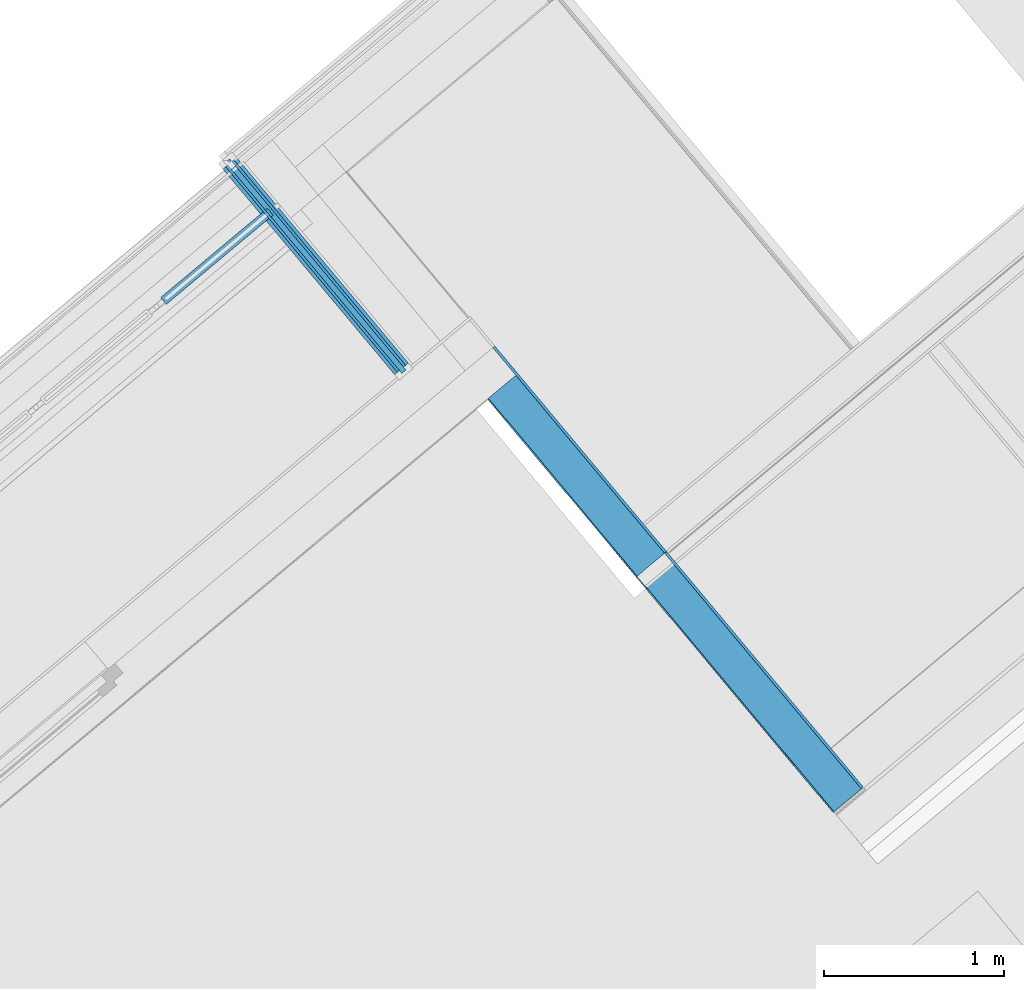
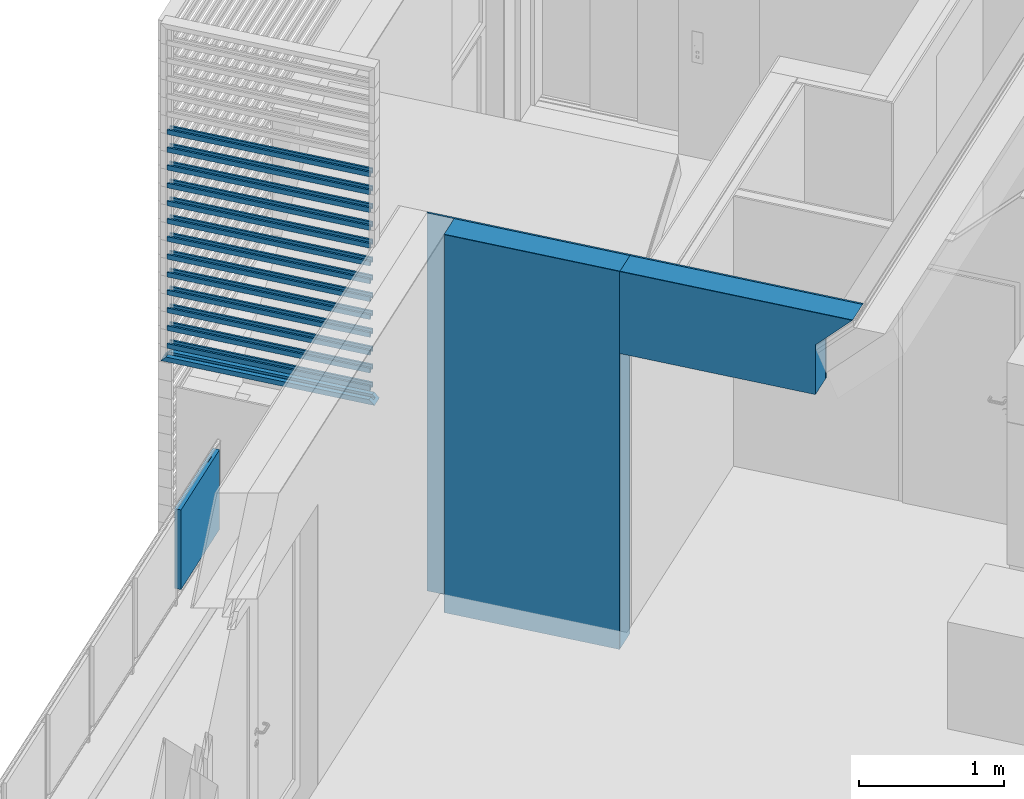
# One storey, part 20 of 47: 21 building element parts, 4 elements without a shape of their own.
"""IFC4 building model written with IfcOpenShell, lengths in metres."""

from ifc_helpers import new_model, entity, si_unit, converted_unit, derived_unit, direction, frame, origin_with_axes, place, context, subcontext, project, spatial, polygons, material, type_object, element, aggregate, save


model = new_model("IFC4")

# Units and contexts
model_context = context("Model", 3, precision=1e-05, world=origin_with_axes(), true_north=direction((0.0, 1.0)))
body_context = subcontext(model_context, "Body", "Model", "MODEL_VIEW")
ifc_project = project(units=[si_unit("LENGTHUNIT", "METRE"), si_unit("AREAUNIT", "SQUARE_METRE"), si_unit("VOLUMEUNIT", "CUBIC_METRE"), converted_unit("PLANEANGLEUNIT", "DEGREE", entity("IfcPlaneAngleMeasure", 0.0174532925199), si_unit("PLANEANGLEUNIT", "RADIAN"), dimensions=[0, 0, 0, 0, 0, 0, 0]), converted_unit("TIMEUNIT", "Year", entity("IfcTimeMeasure", 31556926.0), si_unit("TIMEUNIT", "SECOND"), dimensions=[0, 0, 1, 0, 0, 0, 0]), si_unit("MASSUNIT", "GRAM", prefix="KILO"), si_unit("THERMODYNAMICTEMPERATUREUNIT", "DEGREE_CELSIUS"), si_unit("LUMINOUSINTENSITYUNIT", "LUMEN"), si_unit("ENERGYUNIT", "JOULE", prefix="MEGA"), derived_unit("THERMALCONDUCTANCEUNIT", [(si_unit("POWERUNIT", "WATT"), 1), (si_unit("LENGTHUNIT", "METRE"), -1), (si_unit("THERMODYNAMICTEMPERATUREUNIT", "KELVIN"), -1)]), derived_unit("SPECIFICHEATCAPACITYUNIT", [(si_unit("ENERGYUNIT", "JOULE"), 1), (si_unit("MASSUNIT", "GRAM", prefix="KILO"), -1), (si_unit("THERMODYNAMICTEMPERATUREUNIT", "KELVIN"), -1)]), derived_unit("MASSDENSITYUNIT", [(si_unit("MASSUNIT", "GRAM", prefix="KILO"), 1), (si_unit("VOLUMEUNIT", "CUBIC_METRE"), -1)])], contexts=[model_context])

# Site, building, storey
site_placement = place(None, frame((-0.00153261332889, -0.00661245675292, 0.0), z_axis=(0.0, 0.0, 1.0), x_axis=(1.0, 0.0, 0.0)))
site = spatial("IfcSite", under=ifc_project, at=site_placement, Name="Site", CompositionType="ELEMENT")
building_placement = place(site_placement, origin_with_axes())
building = spatial("IfcBuilding", under=site, at=building_placement, Name="Building", CompositionType="ELEMENT")
storey_placement = place(building_placement, frame((0.0, 0.0, 8.66), z_axis=(0.0, 0.0, 1.0), x_axis=(1.0, 0.0, 0.0)))
storey = spatial("IfcBuildingStorey", under=building, at=storey_placement, Name="DG2", CompositionType="ELEMENT", Elevation=8.66)

# Wall, building element parts
wall_type = type_object("IfcWallType", Name="AW DG 220", PredefinedType="NOTDEFINED")
wall_1_placement = place(storey_placement, frame((-2.3472298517, 20.4348629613, 2.49006881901), z_axis=(0.0, 0.0, 1.0), x_axis=(0.641209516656, -0.767365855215, 0.0)))
wall_1 = element("IfcWall", 1, at=wall_1_placement, inside=storey, type_object=wall_type, Name="Wand-003", PredefinedType="NOTDEFINED")
ifc_material_1 = material(Name="Zementputz")
building_element_part_1_placement = place(wall_1_placement, origin_with_axes())
building_element_part_1 = element("IfcBuildingElementPart", 2, at=building_element_part_1_placement, material=ifc_material_1, Name="Zementputz", PredefinedType="NOTDEFINED", context=body_context, shape_type="Tessellation", body=[
    polygons([(1.91245812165, 0.20500000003, 0.689931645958), (1.91245859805, 0.219999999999, 0.689931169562), (0.0, 0.22, 0.689931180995), (0.0, 0.205, 0.689931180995), (1.64102248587, 0.22, 0.418495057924), (1.64102167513, 0.205, 0.41849519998), (1.64102248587, 0.22, 0.0), (0.0, 0.22, 0.0), (0.0, 0.205, 0.0), (1.64102167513, 0.205, 0.0)], [[[1, 2, 3, 4]], [[5, 2, 1, 6]], [[5, 7, 8, 3, 2]], [[3, 8, 9, 4]], [[6, 1, 4, 9, 10]], [[7, 5, 6, 10]], [[7, 10, 9, 8]]], closed=True),
])
ifc_material_2 = material(Name="Stahlbeton Wand")
building_element_part_2_placement = place(wall_1_placement, origin_with_axes())
building_element_part_2 = element("IfcBuildingElementPart", 3, at=building_element_part_2_placement, material=ifc_material_2, Name="Stahlbeton Wand", PredefinedType="NOTDEFINED", context=body_context, shape_type="Tessellation", body=[
    polygons([(1.9124517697, 0.00500000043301, 0.689937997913), (1.91245812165, 0.20500000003, 0.689931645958), (0.0, 0.205, 0.689931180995), (0.0, 0.005, 0.689931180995), (1.64102167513, 0.205, 0.41849519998), (1.64101086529, 0.005, 0.41849709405), (1.64102167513, 0.205, 0.0), (0.0, 0.205, 0.0), (0.0, 0.005, 0.0), (1.64101086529, 0.005, 0.0)], [[[1, 2, 3, 4]], [[5, 2, 1, 6]], [[5, 7, 8, 3, 2]], [[3, 8, 9, 4]], [[6, 1, 4, 9, 10]], [[7, 5, 6, 10]], [[7, 10, 9, 8]]], closed=True),
])
building_element_part_3_placement = place(wall_1_placement, origin_with_axes())
building_element_part_3 = element("IfcBuildingElementPart", 4, at=building_element_part_3_placement, material=ifc_material_1, Name="Zementputz", PredefinedType="NOTDEFINED", context=body_context, shape_type="Tessellation", body=[
    polygons([(1.9124516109, 4.43092673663e-10, 0.689938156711), (1.9124517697, 0.00500000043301, 0.689937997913), (0.0, 0.005, 0.689931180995), (0.0, 0.0, 0.689931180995), (1.64101086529, 0.005, 0.41849709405), (1.64101059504, 0.0, 0.418497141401), (1.64101086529, 0.005, 0.0), (0.0, 0.005, 0.0), (0.0, 0.0, 0.0), (1.64101059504, 0.0, 0.0)], [[[1, 2, 3, 4]], [[5, 2, 1, 6]], [[5, 7, 8, 3, 2]], [[3, 8, 9, 4]], [[6, 1, 4, 9, 10]], [[7, 5, 6, 10]], [[7, 10, 9, 8]]], closed=True),
])
aggregate(wall_1, [building_element_part_1, building_element_part_2, building_element_part_3])

# Curtain wall, building element parts
curtain_wall_type = type_object("IfcCurtainWallType", Name="Fassadentyp", PredefinedType="NOTDEFINED")
curtain_wall_placement = place(storey_placement, frame((-3.99984616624, 22.0071436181, 1.87), z_axis=(0.0, 0.0, 1.0), x_axis=(1.0, 0.0, 0.0)))
curtain_wall = element("IfcCurtainWall", 5, at=curtain_wall_placement, inside=storey, type_object=curtain_wall_type, Name="Fassade-001", PredefinedType="NOTDEFINED")
ifc_material_3 = material(Name="Blech")
building_element_part_4_placement = place(curtain_wall_placement, origin_with_axes())
building_element_part_4 = element("IfcBuildingElementPart", 6, at=building_element_part_4_placement, material=ifc_material_3, Name="Blech", PredefinedType="NOTDEFINED", context=body_context, shape_type="Tessellation", body=[
    polygons([(0.502113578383, -0.577509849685, 0.0), (0.479092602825, -0.596746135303, 0.0), (0.466268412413, -0.581398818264, 0.02), (0.439410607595, -0.603841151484, 0.02), (0.465058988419, -0.634535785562, -0.02), (0.541795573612, -0.570414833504, -0.02), (0.516147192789, -0.539720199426, 0.02), (0.489289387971, -0.562162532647, 0.02), (-0.479092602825, 0.596746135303, 0.0), (-0.502113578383, 0.577509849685, 0.0), (-0.489289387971, 0.562162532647, 0.02), (-0.516147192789, 0.539720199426, 0.02), (-0.541795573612, 0.570414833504, -0.02), (-0.465058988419, 0.634535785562, -0.02), (-0.439410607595, 0.603841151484, 0.02), (-0.466268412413, 0.581398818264, 0.02)], [[[1, 2, 3, 4, 5, 6, 7, 8]], [[2, 1, 9, 10]], [[11, 3, 2, 10]], [[3, 11, 12, 4]], [[5, 4, 12, 13]], [[6, 5, 13, 14]], [[7, 6, 14, 15]], [[16, 8, 7, 15]], [[1, 8, 16, 9]], [[9, 16, 15, 14, 13, 12, 11, 10]]], closed=True),
])
building_element_part_5_placement = place(curtain_wall_placement, origin_with_axes())
building_element_part_5 = element("IfcBuildingElementPart", 7, at=building_element_part_5_placement, material=ifc_material_3, Name="Blech", PredefinedType="NOTDEFINED", context=body_context, shape_type="Tessellation", body=[
    polygons([(-0.466268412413, 0.581398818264, 0.100000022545), (-0.466268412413, 0.581398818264, 0.0800000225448), (0.489289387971, -0.562162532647, 0.0800000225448), (0.489289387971, -0.562162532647, 0.100000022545), (0.489289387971, -0.562162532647, 0.120000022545), (-0.466268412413, 0.581398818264, 0.120000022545), (-0.454757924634, 0.591016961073, 0.120000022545), (-0.454757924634, 0.591016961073, 0.0800000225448), (0.50079987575, -0.552544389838, 0.0800000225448), (0.50079987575, -0.552544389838, 0.120000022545)], [[[1, 2, 3, 4, 5, 6]], [[2, 1, 6, 7, 8]], [[3, 2, 8, 9]], [[4, 3, 9, 10, 5]], [[5, 10, 7, 6]], [[9, 8, 7, 10]]], closed=True),
    polygons([(0.466268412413, -0.581398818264, 0.0800000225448), (0.466268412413, -0.581398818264, 0.100000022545), (0.466268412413, -0.581398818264, 0.120000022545), (0.454757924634, -0.591016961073, 0.120000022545), (0.454757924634, -0.591016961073, 0.0800000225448), (-0.489289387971, 0.562162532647, 0.0800000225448), (-0.489289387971, 0.562162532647, 0.100000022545), (-0.489289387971, 0.562162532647, 0.120000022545), (-0.500799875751, 0.552544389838, 0.120000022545), (-0.500799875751, 0.552544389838, 0.0800000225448)], [[[1, 2, 3, 4, 5]], [[2, 1, 6, 7, 8, 3]], [[8, 9, 4, 3]], [[4, 9, 10, 5]], [[6, 1, 5, 10]], [[7, 6, 10, 9, 8]]], closed=True),
])
building_element_part_6_placement = place(curtain_wall_placement, origin_with_axes())
building_element_part_6 = element("IfcBuildingElementPart", 8, at=building_element_part_6_placement, material=ifc_material_3, Name="Blech", PredefinedType="NOTDEFINED", context=body_context, shape_type="Tessellation", body=[
    polygons([(-0.466268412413, 0.581398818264, 0.250000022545), (-0.466268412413, 0.581398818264, 0.230000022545), (0.489289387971, -0.562162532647, 0.230000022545), (0.489289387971, -0.562162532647, 0.250000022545), (0.489289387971, -0.562162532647, 0.270000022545), (-0.466268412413, 0.581398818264, 0.270000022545), (-0.454757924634, 0.591016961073, 0.270000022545), (-0.454757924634, 0.591016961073, 0.230000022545), (0.50079987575, -0.552544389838, 0.230000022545), (0.50079987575, -0.552544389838, 0.270000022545)], [[[1, 2, 3, 4, 5, 6]], [[2, 1, 6, 7, 8]], [[3, 2, 8, 9]], [[4, 3, 9, 10, 5]], [[5, 10, 7, 6]], [[9, 8, 7, 10]]], closed=True),
    polygons([(0.466268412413, -0.581398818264, 0.230000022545), (0.466268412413, -0.581398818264, 0.250000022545), (0.466268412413, -0.581398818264, 0.270000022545), (0.454757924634, -0.591016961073, 0.270000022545), (0.454757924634, -0.591016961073, 0.230000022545), (-0.489289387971, 0.562162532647, 0.230000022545), (-0.489289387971, 0.562162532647, 0.250000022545), (-0.489289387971, 0.562162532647, 0.270000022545), (-0.500799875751, 0.552544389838, 0.270000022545), (-0.500799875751, 0.552544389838, 0.230000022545)], [[[1, 2, 3, 4, 5]], [[2, 1, 6, 7, 8, 3]], [[8, 9, 4, 3]], [[4, 9, 10, 5]], [[6, 1, 5, 10]], [[7, 6, 10, 9, 8]]], closed=True),
])
building_element_part_7_placement = place(curtain_wall_placement, origin_with_axes())
building_element_part_7 = element("IfcBuildingElementPart", 9, at=building_element_part_7_placement, material=ifc_material_3, Name="Blech", PredefinedType="NOTDEFINED", context=body_context, shape_type="Tessellation", body=[
    polygons([(-0.466268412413, 0.581398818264, 0.400000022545), (-0.466268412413, 0.581398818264, 0.380000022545), (0.489289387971, -0.562162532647, 0.380000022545), (0.489289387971, -0.562162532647, 0.400000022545), (0.489289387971, -0.562162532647, 0.420000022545), (-0.466268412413, 0.581398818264, 0.420000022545), (-0.454757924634, 0.591016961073, 0.420000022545), (-0.454757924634, 0.591016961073, 0.380000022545), (0.50079987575, -0.552544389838, 0.380000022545), (0.50079987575, -0.552544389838, 0.420000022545)], [[[1, 2, 3, 4, 5, 6]], [[2, 1, 6, 7, 8]], [[3, 2, 8, 9]], [[4, 3, 9, 10, 5]], [[5, 10, 7, 6]], [[9, 8, 7, 10]]], closed=True),
    polygons([(0.466268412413, -0.581398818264, 0.380000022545), (0.466268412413, -0.581398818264, 0.400000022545), (0.466268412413, -0.581398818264, 0.420000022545), (0.454757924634, -0.591016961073, 0.420000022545), (0.454757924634, -0.591016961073, 0.380000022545), (-0.489289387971, 0.562162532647, 0.380000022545), (-0.489289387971, 0.562162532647, 0.400000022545), (-0.489289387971, 0.562162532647, 0.420000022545), (-0.500799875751, 0.552544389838, 0.420000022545), (-0.500799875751, 0.552544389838, 0.380000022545)], [[[1, 2, 3, 4, 5]], [[2, 1, 6, 7, 8, 3]], [[8, 9, 4, 3]], [[4, 9, 10, 5]], [[6, 1, 5, 10]], [[7, 6, 10, 9, 8]]], closed=True),
])
building_element_part_8_placement = place(curtain_wall_placement, origin_with_axes())
building_element_part_8 = element("IfcBuildingElementPart", 10, at=building_element_part_8_placement, material=ifc_material_3, Name="Blech", PredefinedType="NOTDEFINED", context=body_context, shape_type="Tessellation", body=[
    polygons([(-0.466268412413, 0.581398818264, 0.550000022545), (-0.466268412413, 0.581398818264, 0.530000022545), (0.489289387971, -0.562162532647, 0.530000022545), (0.489289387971, -0.562162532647, 0.550000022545), (0.489289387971, -0.562162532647, 0.570000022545), (-0.466268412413, 0.581398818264, 0.570000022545), (-0.454757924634, 0.591016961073, 0.570000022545), (-0.454757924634, 0.591016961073, 0.530000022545), (0.50079987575, -0.552544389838, 0.530000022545), (0.50079987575, -0.552544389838, 0.570000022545)], [[[1, 2, 3, 4, 5, 6]], [[2, 1, 6, 7, 8]], [[3, 2, 8, 9]], [[4, 3, 9, 10, 5]], [[5, 10, 7, 6]], [[9, 8, 7, 10]]], closed=True),
    polygons([(0.466268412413, -0.581398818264, 0.530000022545), (0.466268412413, -0.581398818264, 0.550000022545), (0.466268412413, -0.581398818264, 0.570000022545), (0.454757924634, -0.591016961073, 0.570000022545), (0.454757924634, -0.591016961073, 0.530000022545), (-0.489289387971, 0.562162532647, 0.530000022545), (-0.489289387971, 0.562162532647, 0.550000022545), (-0.489289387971, 0.562162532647, 0.570000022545), (-0.500799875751, 0.552544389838, 0.570000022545), (-0.500799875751, 0.552544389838, 0.530000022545)], [[[1, 2, 3, 4, 5]], [[2, 1, 6, 7, 8, 3]], [[8, 9, 4, 3]], [[4, 9, 10, 5]], [[6, 1, 5, 10]], [[7, 6, 10, 9, 8]]], closed=True),
])
building_element_part_9_placement = place(curtain_wall_placement, origin_with_axes())
building_element_part_9 = element("IfcBuildingElementPart", 11, at=building_element_part_9_placement, material=ifc_material_3, Name="Blech", PredefinedType="NOTDEFINED", context=body_context, shape_type="Tessellation", body=[
    polygons([(-0.466268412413, 0.581398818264, 0.700000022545), (-0.466268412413, 0.581398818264, 0.680000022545), (0.489289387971, -0.562162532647, 0.680000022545), (0.489289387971, -0.562162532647, 0.700000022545), (0.489289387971, -0.562162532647, 0.720000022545), (-0.466268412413, 0.581398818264, 0.720000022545), (-0.454757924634, 0.591016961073, 0.720000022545), (-0.454757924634, 0.591016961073, 0.680000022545), (0.50079987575, -0.552544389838, 0.680000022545), (0.50079987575, -0.552544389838, 0.720000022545)], [[[1, 2, 3, 4, 5, 6]], [[2, 1, 6, 7, 8]], [[3, 2, 8, 9]], [[4, 3, 9, 10, 5]], [[5, 10, 7, 6]], [[9, 8, 7, 10]]], closed=True),
    polygons([(0.466268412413, -0.581398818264, 0.680000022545), (0.466268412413, -0.581398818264, 0.700000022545), (0.466268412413, -0.581398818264, 0.720000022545), (0.454757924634, -0.591016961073, 0.720000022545), (0.454757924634, -0.591016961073, 0.680000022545), (-0.489289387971, 0.562162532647, 0.680000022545), (-0.489289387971, 0.562162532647, 0.700000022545), (-0.489289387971, 0.562162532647, 0.720000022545), (-0.500799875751, 0.552544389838, 0.720000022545), (-0.500799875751, 0.552544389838, 0.680000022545)], [[[1, 2, 3, 4, 5]], [[2, 1, 6, 7, 8, 3]], [[8, 9, 4, 3]], [[4, 9, 10, 5]], [[6, 1, 5, 10]], [[7, 6, 10, 9, 8]]], closed=True),
])
building_element_part_10_placement = place(curtain_wall_placement, origin_with_axes())
building_element_part_10 = element("IfcBuildingElementPart", 12, at=building_element_part_10_placement, material=ifc_material_3, Name="Blech", PredefinedType="NOTDEFINED", context=body_context, shape_type="Tessellation", body=[
    polygons([(-0.466268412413, 0.581398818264, 0.850000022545), (-0.466268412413, 0.581398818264, 0.830000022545), (0.489289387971, -0.562162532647, 0.830000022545), (0.489289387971, -0.562162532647, 0.850000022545), (0.489289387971, -0.562162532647, 0.870000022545), (-0.466268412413, 0.581398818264, 0.870000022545), (-0.454757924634, 0.591016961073, 0.870000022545), (-0.454757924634, 0.591016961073, 0.830000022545), (0.50079987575, -0.552544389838, 0.830000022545), (0.50079987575, -0.552544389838, 0.870000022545)], [[[1, 2, 3, 4, 5, 6]], [[2, 1, 6, 7, 8]], [[3, 2, 8, 9]], [[4, 3, 9, 10, 5]], [[5, 10, 7, 6]], [[9, 8, 7, 10]]], closed=True),
    polygons([(0.466268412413, -0.581398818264, 0.830000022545), (0.466268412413, -0.581398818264, 0.850000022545), (0.466268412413, -0.581398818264, 0.870000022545), (0.454757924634, -0.591016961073, 0.870000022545), (0.454757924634, -0.591016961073, 0.830000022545), (-0.489289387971, 0.562162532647, 0.830000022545), (-0.489289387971, 0.562162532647, 0.850000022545), (-0.489289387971, 0.562162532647, 0.870000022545), (-0.500799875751, 0.552544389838, 0.870000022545), (-0.500799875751, 0.552544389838, 0.830000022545)], [[[1, 2, 3, 4, 5]], [[2, 1, 6, 7, 8, 3]], [[8, 9, 4, 3]], [[4, 9, 10, 5]], [[6, 1, 5, 10]], [[7, 6, 10, 9, 8]]], closed=True),
])
building_element_part_11_placement = place(curtain_wall_placement, origin_with_axes())
building_element_part_11 = element("IfcBuildingElementPart", 13, at=building_element_part_11_placement, material=ifc_material_3, Name="Blech", PredefinedType="NOTDEFINED", context=body_context, shape_type="Tessellation", body=[
    polygons([(-0.466268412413, 0.581398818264, 1.00000002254), (-0.466268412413, 0.581398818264, 0.980000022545), (0.489289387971, -0.562162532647, 0.980000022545), (0.489289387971, -0.562162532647, 1.00000002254), (0.489289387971, -0.562162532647, 1.02000002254), (-0.466268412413, 0.581398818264, 1.02000002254), (-0.454757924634, 0.591016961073, 1.02000002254), (-0.454757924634, 0.591016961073, 0.980000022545), (0.50079987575, -0.552544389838, 0.980000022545), (0.50079987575, -0.552544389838, 1.02000002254)], [[[1, 2, 3, 4, 5, 6]], [[2, 1, 6, 7, 8]], [[3, 2, 8, 9]], [[4, 3, 9, 10, 5]], [[5, 10, 7, 6]], [[9, 8, 7, 10]]], closed=True),
    polygons([(0.466268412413, -0.581398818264, 0.980000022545), (0.466268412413, -0.581398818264, 1.00000002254), (0.466268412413, -0.581398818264, 1.02000002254), (0.454757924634, -0.591016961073, 1.02000002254), (0.454757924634, -0.591016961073, 0.980000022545), (-0.489289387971, 0.562162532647, 0.980000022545), (-0.489289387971, 0.562162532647, 1.00000002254), (-0.489289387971, 0.562162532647, 1.02000002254), (-0.500799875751, 0.552544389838, 1.02000002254), (-0.500799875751, 0.552544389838, 0.980000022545)], [[[1, 2, 3, 4, 5]], [[2, 1, 6, 7, 8, 3]], [[8, 9, 4, 3]], [[4, 9, 10, 5]], [[6, 1, 5, 10]], [[7, 6, 10, 9, 8]]], closed=True),
])
building_element_part_12_placement = place(curtain_wall_placement, origin_with_axes())
building_element_part_12 = element("IfcBuildingElementPart", 14, at=building_element_part_12_placement, material=ifc_material_3, Name="Blech", PredefinedType="NOTDEFINED", context=body_context, shape_type="Tessellation", body=[
    polygons([(-0.466268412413, 0.581398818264, 1.15000002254), (-0.466268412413, 0.581398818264, 1.13000002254), (0.489289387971, -0.562162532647, 1.13000002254), (0.489289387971, -0.562162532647, 1.15000002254), (0.489289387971, -0.562162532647, 1.17000002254), (-0.466268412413, 0.581398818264, 1.17000002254), (-0.454757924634, 0.591016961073, 1.17000002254), (-0.454757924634, 0.591016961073, 1.13000002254), (0.50079987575, -0.552544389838, 1.13000002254), (0.50079987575, -0.552544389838, 1.17000002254)], [[[1, 2, 3, 4, 5, 6]], [[2, 1, 6, 7, 8]], [[3, 2, 8, 9]], [[4, 3, 9, 10, 5]], [[5, 10, 7, 6]], [[9, 8, 7, 10]]], closed=True),
    polygons([(0.466268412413, -0.581398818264, 1.13000002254), (0.466268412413, -0.581398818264, 1.15000002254), (0.466268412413, -0.581398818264, 1.17000002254), (0.454757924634, -0.591016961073, 1.17000002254), (0.454757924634, -0.591016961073, 1.13000002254), (-0.489289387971, 0.562162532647, 1.13000002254), (-0.489289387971, 0.562162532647, 1.15000002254), (-0.489289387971, 0.562162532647, 1.17000002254), (-0.500799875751, 0.552544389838, 1.17000002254), (-0.500799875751, 0.552544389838, 1.13000002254)], [[[1, 2, 3, 4, 5]], [[2, 1, 6, 7, 8, 3]], [[8, 9, 4, 3]], [[4, 9, 10, 5]], [[6, 1, 5, 10]], [[7, 6, 10, 9, 8]]], closed=True),
])
building_element_part_13_placement = place(curtain_wall_placement, origin_with_axes())
building_element_part_13 = element("IfcBuildingElementPart", 15, at=building_element_part_13_placement, material=ifc_material_3, Name="Blech", PredefinedType="NOTDEFINED", context=body_context, shape_type="Tessellation", body=[
    polygons([(-0.466268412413, 0.581398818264, 1.30000002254), (-0.466268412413, 0.581398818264, 1.28000002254), (0.489289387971, -0.562162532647, 1.28000002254), (0.489289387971, -0.562162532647, 1.30000002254), (0.489289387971, -0.562162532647, 1.32000002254), (-0.466268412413, 0.581398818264, 1.32000002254), (-0.454757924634, 0.591016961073, 1.32000002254), (-0.454757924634, 0.591016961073, 1.28000002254), (0.50079987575, -0.552544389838, 1.28000002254), (0.50079987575, -0.552544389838, 1.32000002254)], [[[1, 2, 3, 4, 5, 6]], [[2, 1, 6, 7, 8]], [[3, 2, 8, 9]], [[4, 3, 9, 10, 5]], [[5, 10, 7, 6]], [[9, 8, 7, 10]]], closed=True),
    polygons([(0.466268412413, -0.581398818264, 1.28000002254), (0.466268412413, -0.581398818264, 1.30000002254), (0.466268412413, -0.581398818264, 1.32000002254), (0.454757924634, -0.591016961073, 1.32000002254), (0.454757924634, -0.591016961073, 1.28000002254), (-0.489289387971, 0.562162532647, 1.28000002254), (-0.489289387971, 0.562162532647, 1.30000002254), (-0.489289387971, 0.562162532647, 1.32000002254), (-0.500799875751, 0.552544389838, 1.32000002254), (-0.500799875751, 0.552544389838, 1.28000002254)], [[[1, 2, 3, 4, 5]], [[2, 1, 6, 7, 8, 3]], [[8, 9, 4, 3]], [[4, 9, 10, 5]], [[6, 1, 5, 10]], [[7, 6, 10, 9, 8]]], closed=True),
])
building_element_part_14_placement = place(curtain_wall_placement, origin_with_axes())
building_element_part_14 = element("IfcBuildingElementPart", 16, at=building_element_part_14_placement, material=ifc_material_3, Name="Blech", PredefinedType="NOTDEFINED", context=body_context, shape_type="Tessellation", body=[
    polygons([(-0.466268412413, 0.581398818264, 1.45000002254), (-0.466268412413, 0.581398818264, 1.43000002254), (0.489289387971, -0.562162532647, 1.43000002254), (0.489289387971, -0.562162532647, 1.45000002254), (0.489289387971, -0.562162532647, 1.47000002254), (-0.466268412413, 0.581398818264, 1.47000002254), (-0.454757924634, 0.591016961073, 1.47000002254), (-0.454757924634, 0.591016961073, 1.43000002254), (0.50079987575, -0.552544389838, 1.43000002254), (0.50079987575, -0.552544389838, 1.47000002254)], [[[1, 2, 3, 4, 5, 6]], [[2, 1, 6, 7, 8]], [[3, 2, 8, 9]], [[4, 3, 9, 10, 5]], [[5, 10, 7, 6]], [[9, 8, 7, 10]]], closed=True),
    polygons([(0.466268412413, -0.581398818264, 1.43000002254), (0.466268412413, -0.581398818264, 1.45000002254), (0.466268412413, -0.581398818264, 1.47000002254), (0.454757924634, -0.591016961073, 1.47000002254), (0.454757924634, -0.591016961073, 1.43000002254), (-0.489289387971, 0.562162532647, 1.43000002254), (-0.489289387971, 0.562162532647, 1.45000002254), (-0.489289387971, 0.562162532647, 1.47000002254), (-0.500799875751, 0.552544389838, 1.47000002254), (-0.500799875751, 0.552544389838, 1.43000002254)], [[[1, 2, 3, 4, 5]], [[2, 1, 6, 7, 8, 3]], [[8, 9, 4, 3]], [[4, 9, 10, 5]], [[6, 1, 5, 10]], [[7, 6, 10, 9, 8]]], closed=True),
])
building_element_part_15_placement = place(curtain_wall_placement, origin_with_axes())
building_element_part_15 = element("IfcBuildingElementPart", 17, at=building_element_part_15_placement, material=ifc_material_3, Name="Blech", PredefinedType="NOTDEFINED", context=body_context, shape_type="Tessellation", body=[
    polygons([(-0.466268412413, 0.581398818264, 1.60000002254), (-0.466268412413, 0.581398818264, 1.58000002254), (0.489289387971, -0.562162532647, 1.58000002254), (0.489289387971, -0.562162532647, 1.60000002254), (0.489289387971, -0.562162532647, 1.62000002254), (-0.466268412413, 0.581398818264, 1.62000002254), (-0.454757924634, 0.591016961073, 1.62000002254), (-0.454757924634, 0.591016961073, 1.58000002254), (0.50079987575, -0.552544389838, 1.58000002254), (0.50079987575, -0.552544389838, 1.62000002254)], [[[1, 2, 3, 4, 5, 6]], [[2, 1, 6, 7, 8]], [[3, 2, 8, 9]], [[4, 3, 9, 10, 5]], [[5, 10, 7, 6]], [[9, 8, 7, 10]]], closed=True),
    polygons([(0.466268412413, -0.581398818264, 1.58000002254), (0.466268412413, -0.581398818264, 1.60000002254), (0.466268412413, -0.581398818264, 1.62000002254), (0.454757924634, -0.591016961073, 1.62000002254), (0.454757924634, -0.591016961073, 1.58000002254), (-0.489289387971, 0.562162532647, 1.58000002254), (-0.489289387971, 0.562162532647, 1.60000002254), (-0.489289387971, 0.562162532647, 1.62000002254), (-0.500799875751, 0.552544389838, 1.62000002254), (-0.500799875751, 0.552544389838, 1.58000002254)], [[[1, 2, 3, 4, 5]], [[2, 1, 6, 7, 8, 3]], [[8, 9, 4, 3]], [[4, 9, 10, 5]], [[6, 1, 5, 10]], [[7, 6, 10, 9, 8]]], closed=True),
])
building_element_part_16_placement = place(curtain_wall_placement, origin_with_axes())
building_element_part_16 = element("IfcBuildingElementPart", 18, at=building_element_part_16_placement, material=ifc_material_3, Name="Blech", PredefinedType="NOTDEFINED", context=body_context, shape_type="Tessellation", body=[
    polygons([(-0.466268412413, 0.581398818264, 1.75000002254), (-0.466268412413, 0.581398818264, 1.73000002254), (0.489289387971, -0.562162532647, 1.73000002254), (0.489289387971, -0.562162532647, 1.75000002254), (0.489289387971, -0.562162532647, 1.77000002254), (-0.466268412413, 0.581398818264, 1.77000002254), (-0.454757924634, 0.591016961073, 1.77000002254), (-0.454757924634, 0.591016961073, 1.73000002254), (0.50079987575, -0.552544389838, 1.73000002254), (0.50079987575, -0.552544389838, 1.77000002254)], [[[1, 2, 3, 4, 5, 6]], [[2, 1, 6, 7, 8]], [[3, 2, 8, 9]], [[4, 3, 9, 10, 5]], [[5, 10, 7, 6]], [[9, 8, 7, 10]]], closed=True),
    polygons([(0.466268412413, -0.581398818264, 1.73000002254), (0.466268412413, -0.581398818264, 1.75000002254), (0.466268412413, -0.581398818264, 1.77000002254), (0.454757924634, -0.591016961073, 1.77000002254), (0.454757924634, -0.591016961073, 1.73000002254), (-0.489289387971, 0.562162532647, 1.73000002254), (-0.489289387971, 0.562162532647, 1.75000002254), (-0.489289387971, 0.562162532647, 1.77000002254), (-0.500799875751, 0.552544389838, 1.77000002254), (-0.500799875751, 0.552544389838, 1.73000002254)], [[[1, 2, 3, 4, 5]], [[2, 1, 6, 7, 8, 3]], [[8, 9, 4, 3]], [[4, 9, 10, 5]], [[6, 1, 5, 10]], [[7, 6, 10, 9, 8]]], closed=True),
])
building_element_part_17_placement = place(curtain_wall_placement, origin_with_axes())
building_element_part_17 = element("IfcBuildingElementPart", 19, at=building_element_part_17_placement, material=ifc_material_3, Name="Blech", PredefinedType="NOTDEFINED", context=body_context, shape_type="Tessellation", body=[
    polygons([(-0.466268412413, 0.581398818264, 1.90000002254), (-0.466268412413, 0.581398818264, 1.88000002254), (0.489289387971, -0.562162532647, 1.88000002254), (0.489289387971, -0.562162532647, 1.90000002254), (0.489289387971, -0.562162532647, 1.92000002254), (-0.466268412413, 0.581398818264, 1.92000002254), (-0.454757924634, 0.591016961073, 1.92000002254), (-0.454757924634, 0.591016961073, 1.88000002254), (0.50079987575, -0.552544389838, 1.88000002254), (0.50079987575, -0.552544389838, 1.92000002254)], [[[1, 2, 3, 4, 5, 6]], [[2, 1, 6, 7, 8]], [[3, 2, 8, 9]], [[4, 3, 9, 10, 5]], [[5, 10, 7, 6]], [[9, 8, 7, 10]]], closed=True),
    polygons([(0.466268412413, -0.581398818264, 1.88000002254), (0.466268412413, -0.581398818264, 1.90000002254), (0.466268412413, -0.581398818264, 1.92000002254), (0.454757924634, -0.591016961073, 1.92000002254), (0.454757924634, -0.591016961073, 1.88000002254), (-0.489289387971, 0.562162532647, 1.88000002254), (-0.489289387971, 0.562162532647, 1.90000002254), (-0.489289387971, 0.562162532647, 1.92000002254), (-0.500799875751, 0.552544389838, 1.92000002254), (-0.500799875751, 0.552544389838, 1.88000002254)], [[[1, 2, 3, 4, 5]], [[2, 1, 6, 7, 8, 3]], [[8, 9, 4, 3]], [[4, 9, 10, 5]], [[6, 1, 5, 10]], [[7, 6, 10, 9, 8]]], closed=True),
])
aggregate(curtain_wall, [building_element_part_4, building_element_part_5, building_element_part_6, building_element_part_7, building_element_part_8, building_element_part_9, building_element_part_10, building_element_part_11, building_element_part_12, building_element_part_13, building_element_part_14, building_element_part_15, building_element_part_16, building_element_part_17])

# Wall, building element parts
wall_2_placement = place(storey_placement, frame((-3.30972794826, 21.5867301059, 0.0), z_axis=(0.0, 0.0, 1.0), x_axis=(0.641209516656, -0.767365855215, 0.0)))
wall_2 = element("IfcWall", 20, at=wall_2_placement, inside=storey, type_object=wall_type, Name="Wand-003", PredefinedType="NOTDEFINED")
building_element_part_18_placement = place(wall_2_placement, origin_with_axes())
building_element_part_18 = element("IfcBuildingElementPart", 21, at=building_element_part_18_placement, material=ifc_material_1, Name="Zementputz", PredefinedType="NOTDEFINED", context=body_context, shape_type="Tessellation", body=[
    polygons([(1.70567840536, 0.205, 2.49), (1.70567840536, 0.22, 2.49), (1.70567840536, 0.22, 3.18), (1.70567840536, 0.205, 3.18), (1.51606596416, 0.22, 2.49), (1.51606599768, 0.205, 2.49), (1.51606596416, 0.22, 0.0), (0.214999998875, 0.22, 0.0), (0.214999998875, 0.22, 3.18), (0.214999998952, 0.205, 3.18), (0.214999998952, 0.205, 0.0), (1.51606599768, 0.205, 0.0)], [[[1, 2, 3, 4]], [[5, 2, 1, 6]], [[5, 7, 8, 9, 3, 2]], [[10, 4, 3, 9]], [[6, 1, 4, 10, 11, 12]], [[7, 5, 6, 12]], [[7, 12, 11, 8]], [[11, 10, 9, 8]]], closed=True),
])
building_element_part_19_placement = place(wall_2_placement, origin_with_axes())
building_element_part_19 = element("IfcBuildingElementPart", 22, at=building_element_part_19_placement, material=ifc_material_2, Name="Stahlbeton Wand", PredefinedType="NOTDEFINED", context=body_context, shape_type="Tessellation", body=[
    polygons([(1.70567840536, 0.005, 3.18), (1.70567840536, 0.205, 3.18), (0.414999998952, 0.205, 3.18), (0.414999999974, 0.005, 3.18), (1.70567840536, 0.005, 0.0), (1.70567840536, 0.205, 0.0), (0.414999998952, 0.205, 0.0), (0.414999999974, 0.005, 0.0)], [[[1, 2, 3, 4]], [[1, 5, 6, 2]], [[2, 6, 7, 3]], [[4, 3, 7, 8]], [[5, 1, 4, 8]], [[6, 5, 8, 7]]], closed=True),
])
building_element_part_20_placement = place(wall_2_placement, origin_with_axes())
building_element_part_20 = element("IfcBuildingElementPart", 23, at=building_element_part_20_placement, material=ifc_material_1, Name="Zementputz", PredefinedType="NOTDEFINED", context=body_context, shape_type="Tessellation", body=[
    polygons([(1.70567840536, 0.0, 3.18), (1.70567840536, 0.005, 3.18), (0.419999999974, 0.005, 3.18), (0.42, 0.0, 3.18), (1.70567840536, 0.0, 0.0), (1.70567840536, 0.005, 0.0), (0.419999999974, 0.005, 0.0), (0.42, 0.0, 0.0)], [[[1, 2, 3, 4]], [[1, 5, 6, 2]], [[2, 6, 7, 3]], [[4, 3, 7, 8]], [[5, 1, 4, 8]], [[6, 5, 8, 7]]], closed=True),
])
aggregate(wall_2, [building_element_part_18, building_element_part_19, building_element_part_20])

# Railing, building element part
railing_type = type_object("IfcRailingType", Name="Geländerart", PredefinedType="NOTDEFINED")
railing_placement = place(storey_placement, frame((-7.40951182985, 18.1414107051, 0.38), z_axis=(0.0, 0.0, 1.0), x_axis=(1.0, 0.0, 0.0)))
railing = element("IfcRailing", 24, at=railing_placement, inside=storey, type_object=railing_type, Name="Geländer - 001", PredefinedType="NOTDEFINED")
ifc_material_4 = material(Name="Aluminium")
building_element_part_21_placement = place(railing_placement, origin_with_axes())
building_element_part_21 = element("IfcBuildingElementPart", 25, at=building_element_part_21_placement, material=ifc_material_4, Name="Aluminium", PredefinedType="NOTDEFINED", context=body_context, shape_type="Tessellation", body=[
    polygons([(2.63780026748, 3.73800896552, 0.12), (2.69151587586, 3.78289363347, 0.12), (2.69151587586, 3.78289363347, 0.095), (2.63780026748, 3.73800896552, 0.095), (2.64100631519, 3.73417213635, 0.12), (2.69472192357, 3.7790568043, 0.12), (2.69472192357, 3.7790568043, 0.095), (2.64100631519, 3.73417213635, 0.095)], [[[1, 2, 3, 4]], [[5, 6, 2, 1]], [[2, 6, 7, 3]], [[4, 3, 7, 8]], [[1, 4, 8, 5]], [[8, 7, 6, 5]]], closed=True),
    polygons([(3.07842246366, 4.10619209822, 0.79), (3.02470685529, 4.06130743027, 0.79), (3.02470685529, 4.06130743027, 0.795), (3.07842246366, 4.10619209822, 0.795), (3.08162851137, 4.10235526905, 0.79), (3.027912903, 4.0574706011, 0.79), (3.027912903, 4.0574706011, 0.795), (3.08162851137, 4.10235526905, 0.795)], [[[1, 2, 3, 4]], [[5, 6, 2, 1]], [[2, 6, 7, 3]], [[4, 3, 7, 8]], [[1, 4, 8, 5]], [[8, 7, 6, 5]]], closed=True),
    polygons([(2.5786969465, 3.65278545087, 0.12), (2.54663646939, 3.69115374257, 0.12), (3.14073183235, 4.1875787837, 0.12), (3.17279230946, 4.149210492, 0.12), (2.59404426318, 3.66560964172, 0.14), (2.58442612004, 3.67712012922, 0.14), (2.58058929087, 3.67391408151, 0.135), (2.56776510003, 3.68926139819, 0.135), (2.5716019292, 3.6924674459, 0.14), (2.56198378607, 3.70397793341, 0.14), (3.12538451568, 4.17475459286, 0.14), (3.12538451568, 4.17475459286, 0.77), (2.56198378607, 3.70397793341, 0.77), (2.56198378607, 3.70397793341, 0.14), (2.54663646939, 3.69115374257, 0.12), (2.54663646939, 3.69115374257, 0.79), (3.14073183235, 4.1875787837, 0.79), (3.17279230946, 4.149210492, 0.79), (2.5786969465, 3.65278545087, 0.79), (2.5786969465, 3.65278545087, 0.12), (2.59404426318, 3.66560964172, 0.14), (2.59404426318, 3.66560964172, 0.77), (3.15744499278, 4.13638630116, 0.77), (3.15744499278, 4.13638630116, 0.14), (3.14782684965, 4.14789678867, 0.14), (3.14782684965, 4.14789678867, 0.77), (2.58442612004, 3.67712012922, 0.77), (2.58442612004, 3.67712012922, 0.14), (2.58058929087, 3.67391408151, 0.135), (2.58058929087, 3.67391408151, 0.775), (3.15166367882, 4.15110283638, 0.775), (3.15166367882, 4.15110283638, 0.135), (3.13883948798, 4.16645015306, 0.135), (3.13883948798, 4.16645015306, 0.775), (2.56776510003, 3.68926139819, 0.775), (2.56776510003, 3.68926139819, 0.135), (2.5716019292, 3.6924674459, 0.14), (2.5716019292, 3.6924674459, 0.77), (3.13500265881, 4.16324410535, 0.77), (3.13500265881, 4.16324410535, 0.14)], [[[1, 2, 3, 4]], [[1, 5, 6, 7, 8, 9, 10, 2]], [[2, 10, 11, 12, 13, 14, 15, 16, 17, 3]], [[4, 3, 17, 18]], [[5, 1, 4, 18, 19, 20, 21, 22, 23, 24]], [[6, 5, 24, 25]], [[7, 6, 25, 26, 27, 28, 29, 30, 31, 32]], [[8, 7, 32, 33]], [[9, 8, 33, 34, 35, 36, 37, 38, 39, 40]], [[10, 9, 40, 11]], [[11, 40, 39, 12]], [[12, 39, 38, 13]], [[13, 38, 37, 14]], [[20, 15, 14, 37, 36, 29, 28, 21]], [[19, 16, 15, 20]], [[18, 17, 16, 19]], [[27, 22, 21, 28]], [[26, 23, 22, 27]], [[25, 24, 23, 26]], [[35, 30, 29, 36]], [[34, 31, 30, 35]], [[33, 32, 31, 34]]], closed=True),
])
aggregate(railing, [building_element_part_21])

save(model, "model.ifc")
